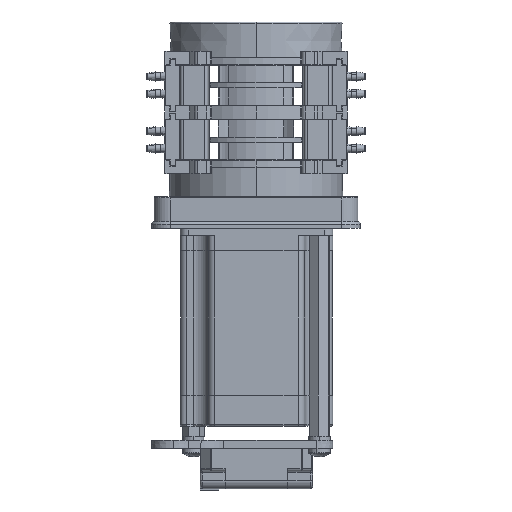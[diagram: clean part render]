
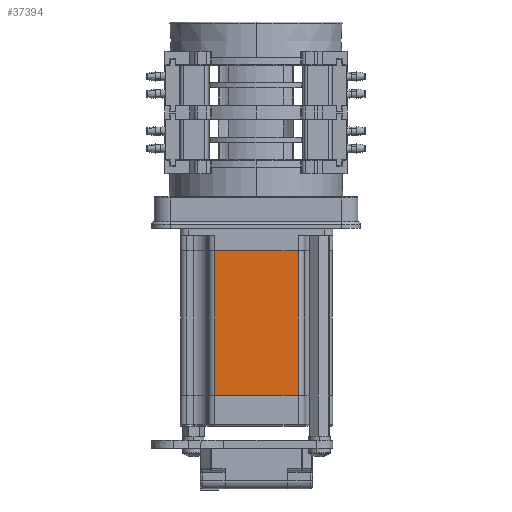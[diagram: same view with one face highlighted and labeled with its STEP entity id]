
A CAD part, left-side view. The second image highlights one B-rep face of the part: STEP entity #37394.
In plain terms, the highlighted planar face has unit normal (-1, 0, 0).
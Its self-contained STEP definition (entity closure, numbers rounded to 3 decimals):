
#1296 = CARTESIAN_POINT ( 'NONE',  ( -28.354, -15.709, 49.705 ) ) ;
#3950 = ORIENTED_EDGE ( 'NONE', *, *, #13052, .T. ) ;
#5219 = CARTESIAN_POINT ( 'NONE',  ( -28.354, 15.431, -95.405 ) ) ;
#6636 = EDGE_CURVE ( 'NONE', #8335, #21351, #31898, .T. ) ;
#7277 = LINE ( 'NONE', #13591, #32968 ) ;
#8335 = VERTEX_POINT ( 'NONE', #38597 ) ;
#10521 = EDGE_LOOP ( 'NONE', ( #3950, #38186, #32334, #31445 ) ) ;
#12994 = VECTOR ( 'NONE', #21046, 1000. ) ;
#13052 = EDGE_CURVE ( 'NONE', #19169, #8335, #21968, .T. ) ;
#13591 = CARTESIAN_POINT ( 'NONE',  ( -28.354, -15.709, -95.405 ) ) ;
#14066 = VECTOR ( 'NONE', #26467, 1000. ) ;
#16696 = VECTOR ( 'NONE', #24780, 1000. ) ;
#19169 = VERTEX_POINT ( 'NONE', #32752 ) ;
#19981 = DIRECTION ( 'NONE',  ( -1., 0., 0. ) ) ;
#20479 = CARTESIAN_POINT ( 'NONE',  ( -28.354, 15.431, 49.705 ) ) ;
#20953 = FACE_OUTER_BOUND ( 'NONE', #10521, .T. ) ;
#21046 = DIRECTION ( 'NONE',  ( 0., 0., -1. ) ) ;
#21351 = VERTEX_POINT ( 'NONE', #5219 ) ;
#21968 = LINE ( 'NONE', #26425, #14066 ) ;
#22830 = EDGE_CURVE ( 'NONE', #43272, #21351, #7277, .T. ) ;
#23488 = EDGE_CURVE ( 'NONE', #19169, #43272, #34482, .T. ) ;
#24403 = AXIS2_PLACEMENT_3D ( 'NONE', #40054, #19981, #43410 ) ;
#24780 = DIRECTION ( 'NONE',  ( 0., 0., -1. ) ) ;
#26425 = CARTESIAN_POINT ( 'NONE',  ( -28.354, -15.709, -41.405 ) ) ;
#26467 = DIRECTION ( 'NONE',  ( 0., 1., 0. ) ) ;
#31445 = ORIENTED_EDGE ( 'NONE', *, *, #23488, .F. ) ;
#31898 = LINE ( 'NONE', #20479, #12994 ) ;
#32334 = ORIENTED_EDGE ( 'NONE', *, *, #22830, .F. ) ;
#32752 = CARTESIAN_POINT ( 'NONE',  ( -28.354, -15.709, -41.405 ) ) ;
#32968 = VECTOR ( 'NONE', #34224, 1000. ) ;
#34224 = DIRECTION ( 'NONE',  ( 0., 1., 0. ) ) ;
#34482 = LINE ( 'NONE', #1296, #16696 ) ;
#37394 = ADVANCED_FACE ( 'NONE', ( #20953 ), #43128, .T. ) ;
#37511 = CARTESIAN_POINT ( 'NONE',  ( -28.354, -15.709, -95.405 ) ) ;
#38186 = ORIENTED_EDGE ( 'NONE', *, *, #6636, .T. ) ;
#38597 = CARTESIAN_POINT ( 'NONE',  ( -28.354, 15.431, -41.405 ) ) ;
#40054 = CARTESIAN_POINT ( 'NONE',  ( -28.354, -15.709, 49.705 ) ) ;
#43128 = PLANE ( 'NONE',  #24403 ) ;
#43272 = VERTEX_POINT ( 'NONE', #37511 ) ;
#43410 = DIRECTION ( 'NONE',  ( 0., 0., 1. ) ) ;
